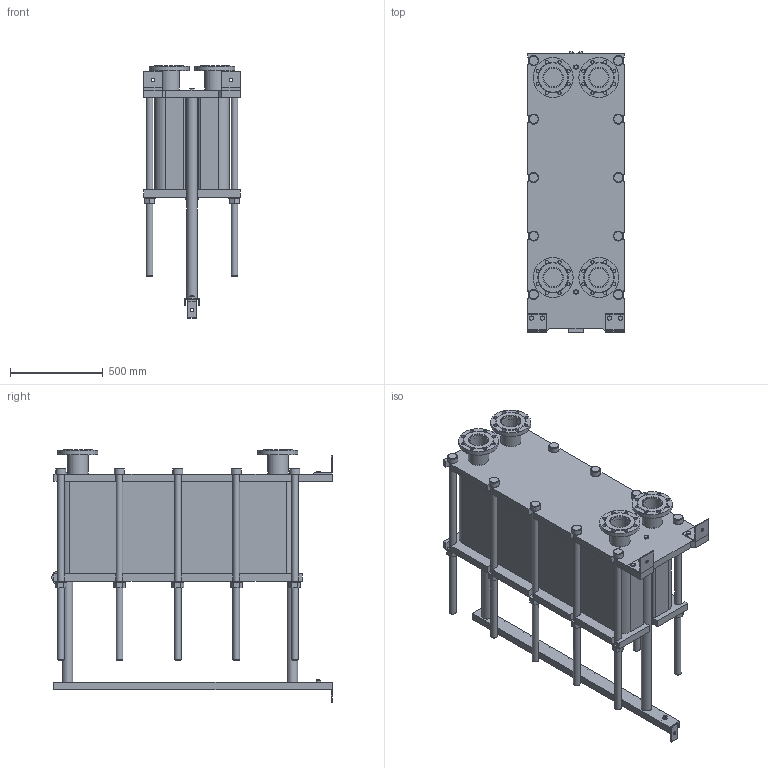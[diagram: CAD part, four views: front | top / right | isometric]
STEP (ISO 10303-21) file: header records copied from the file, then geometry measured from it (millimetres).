
FILE_DESCRIPTION(/* description */ (''),/* implementation_level */ '2;1');
FILE_NAME(/* name */ 'C:\Users\zhuro\Desktop\ENCO\TO\ЭН-04\ЭН-0,5-04-144-1.stp',/* time_stamp */ '2022-06-06T10:58:16+03:00',/* author */ ('zhuro'),/* organization */ (''),/* preprocessor_version */ 'ST-DEVELOPER v18.1',/* originating_system */ 'Autodesk Inventor 2022',/* authorisation */ '');
FILE_SCHEMA (('AUTOMOTIVE_DESIGN { 1 0 10303 214 3 1 1 }'));
Length unit declared in the file: millimetre
Products named in the file (1): ЭН-0,5-04-144-1
Bounding box: 520 x 1510 x 1357 mm (x, y, z)
Volume: 321853253.6 mm3; surface area: 9322826.1 mm2
Topology: 45 solids, 45 shells, 668 faces, 1611 edges, 1048 vertices
Faces by surface type: plane 457, cylinder 166, cone 39, torus 6
Full cylindrical faces by diameter (mm): 8 x4, 10 x2, 16 x8, 18 x35, 36 x25, 40 x2, 42 x1, 45 x4, 54 x10, 57 x2, 60 x10, 68 x2, 100 x4, 110 x8, 215 x4
Entity records: 23607 total; most frequent: CARTESIAN_POINT 7348, DIRECTION 3371, ORIENTED_EDGE 3142, EDGE_CURVE 1571, AXIS2_PLACEMENT_3D 1199, VERTEX_POINT 1044, LINE 973, VECTOR 973
